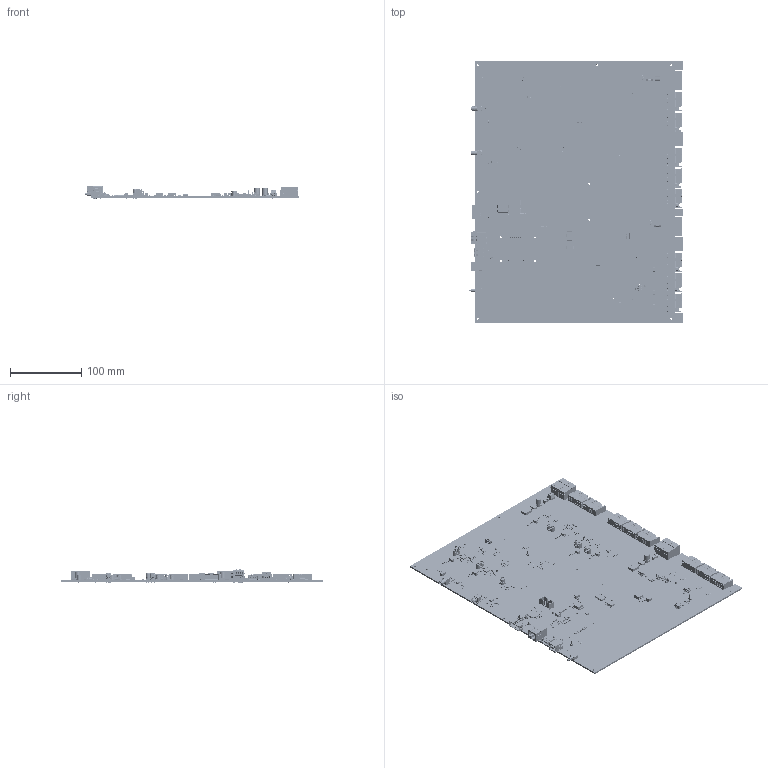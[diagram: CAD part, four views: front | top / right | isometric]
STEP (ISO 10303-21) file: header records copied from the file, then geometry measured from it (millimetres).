
FILE_DESCRIPTION(('STEP AP214'),'1');
FILE_NAME('APSCT.step','2022-02-25T17:09:49',(' '),(' '),'Spatial InterOp 3D','XD3DPlugin XRACreate',' ');
FILE_SCHEMA(('automotive_design'));
Length unit declared in the file: millimetre
Products named in the file (211): Submodel-M:\VIEWlogic\Projects\LOFAR_2\APSCT\Rev3\APSCT\PCB\Layout\3D\Input_S\GCM1555C1H101FA16D.xtd; GCM1555C1H101FA16D; Submodel-CAP0402_MRT_part_simplified_CAPC1005X55N_MRT; APSCT; Submodel-M:\VIEWlogic\Projects\LOFAR_2\APSCT\Rev3\APSCT\PCB\Layout\3D\Input_S\RES_CRCW_0402.xtd; RES_CRCW_0402; Submodel-RES0402_CRCW_VH_part_simplified_RESC1005X40N_VH; Submodel-M:\VIEWlogic\Projects\LOFAR_2\APSCT\Rev3\APSCT\PCB\Layout\3D\Input_S\L1608.xtd; L1608; Submodel-FB0603_WRT_part_simplified_INDC1608X100N_WRT; Submodel-M:\VIEWlogic\Projects\LOFAR_2\APSCT\Rev3\APSCT\PCB\Layout\3D\Input_S\RES_MC0063W0603110K_MTC.xtd; RES_MC0063W0603110K_MTC; Submodel-RES0603_MC_part_simplified_RESC1608X55N_MC; Submodel-M:\VIEWlogic\Projects\LOFAR_2\APSCT\Rev3\APSCT\PCB\Layout\3D\Input_S\BSS138Q-7-F.xtd; BSS138Q-7-F; Submodel-BSS138_part_simplified_SOT95P240X150-3N2_FC; Submodel-M:\VIEWlogic\Projects\LOFAR_2\APSCT\Rev3\APSCT\PCB\Layout\3D\Input_S\TSW-102-05-G-S.xtd; TSW-102-05-G-S; Submodel-JUMP2_part_simplified_JMP2; Submodel-M:\VIEWlogic\Projects\LOFAR_2\APSCT\Rev3\APSCT\PCB\Layout\3D\Input_S\RC0402N_YAG.xtd; RC0402N_YAG; Submodel-RES0402_PYG_part_simplified_RESC1005X37N_PYG; Submodel-M:\VIEWlogic\Projects\LOFAR_2\APSCT\Rev3\APSCT\PCB\Layout\3D\Input_S\CCH-J-02.xtd; CCH-J-02; Submodel-CCH_J_02_part_simplified_CCH_J_02; Submodel-M:\VIEWlogic\Projects\LOFAR_2\APSCT\Rev3\APSCT\PCB\Layout\3D\Input_S\VJ0805Y122KEXAC.xtd; VJ0805Y122KEXAC; Submodel-CAP0805_GRM21_MRT_part_simplified_CAPC2013X145N_MRT2; Submodel-M:\VIEWlogic\Projects\LOFAR_2\APSCT\Rev3\APSCT\PCB\Layout\3D\Input_S\PAT0402E1001BST1.xtd; PAT0402E1001BST1; Submodel-CG0402MLU_part_simplified_RESC1005X40N_BRN_SIEDS; Submodel-M:\VIEWlogic\Projects\LOFAR_2\APSCT\Rev3\APSCT\PCB\Layout\3D\Input_S\QFN16_3X3.xtd; QFN16_3X3; Submodel-NB4L52_part_simplified_QFN50P300X300X100-17N2_ONS; Submodel-M:\VIEWlogic\Projects\LOFAR_2\APSCT\Rev3\APSCT\PCB\Layout\3D\Input_S\xd_capcm_30.xtd; xd_capcm_30; Submodel-CAPPE_AVX_part_simplified_CAPMP7344X430NB_AVX; Submodel-M:\VIEWlogic\Projects\LOFAR_2\APSCT\Rev3\APSCT\PCB\Layout\3D\Input_S\AST01139.xtd; AST01139; Submodel-LED0603_PSN_part_simplified_LEDC1608X90N_PSN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
Assembly tree (1025 placements, depth 4):
  APSCT
    Submodel-CAP0402_MRT_part_simplified_CAPC1005X55N_MRT  x307
      Submodel-M:\VIEWlogic\Projects\LOFAR_2\APSCT\Rev3\APSCT\PCB\Layout\3D\Input_S\GCM1555C1H101FA16D.xtd
        GCM1555C1H101FA16D
    Submodel-RES0402_CRCW_VH_part_simplified_RESC1005X40N_VH  x255
      Submodel-M:\VIEWlogic\Projects\LOFAR_2\APSCT\Rev3\APSCT\PCB\Layout\3D\Input_S\RES_CRCW_0402.xtd
        RES_CRCW_0402
    Submodel-FB0603_WRT_part_simplified_INDC1608X100N_WRT  x19
      Submodel-M:\VIEWlogic\Projects\LOFAR_2\APSCT\Rev3\APSCT\PCB\Layout\3D\Input_S\L1608.xtd
        L1608
    Submodel-RES0603_MC_part_simplified_RESC1608X55N_MC  x5
      Submodel-M:\VIEWlogic\Projects\LOFAR_2\APSCT\Rev3\APSCT\PCB\Layout\3D\Input_S\RES_MC0063W0603110K_MTC.xtd
        RES_MC0063W0603110K_MTC
    Submodel-BSS138_part_simplified_SOT95P240X150-3N2_FC  x6
      Submodel-M:\VIEWlogic\Projects\LOFAR_2\APSCT\Rev3\APSCT\PCB\Layout\3D\Input_S\BSS138Q-7-F.xtd
        BSS138Q-7-F
    Submodel-JUMP2_part_simplified_JMP2  x6
      Submodel-M:\VIEWlogic\Projects\LOFAR_2\APSCT\Rev3\APSCT\PCB\Layout\3D\Input_S\TSW-102-05-G-S.xtd
        TSW-102-05-G-S
    Submodel-RES0402_PYG_part_simplified_RESC1005X37N_PYG  x26
      Submodel-M:\VIEWlogic\Projects\LOFAR_2\APSCT\Rev3\APSCT\PCB\Layout\3D\Input_S\RC0402N_YAG.xtd
        RC0402N_YAG
    Submodel-CCH_J_02_part_simplified_CCH_J_02  x5
      Submodel-M:\VIEWlogic\Projects\LOFAR_2\APSCT\Rev3\APSCT\PCB\Layout\3D\Input_S\CCH-J-02.xtd
        CCH-J-02
    Submodel-CAP0805_GRM21_MRT_part_simplified_CAPC2013X145N_MRT2  x48
      Submodel-M:\VIEWlogic\Projects\LOFAR_2\APSCT\Rev3\APSCT\PCB\Layout\3D\Input_S\VJ0805Y122KEXAC.xtd
        VJ0805Y122KEXAC
    Submodel-CG0402MLU_part_simplified_RESC1005X40N_BRN_SIEDS  x12
      Submodel-M:\VIEWlogic\Projects\LOFAR_2\APSCT\Rev3\APSCT\PCB\Layout\3D\Input_S\PAT0402E1001BST1.xtd
        PAT0402E1001BST1
    Submodel-NB4L52_part_simplified_QFN50P300X300X100-17N2_ONS  x2
      Submodel-M:\VIEWlogic\Projects\LOFAR_2\APSCT\Rev3\APSCT\PCB\Layout\3D\Input_S\QFN16_3X3.xtd
        QFN16_3X3
    Submodel-CAPPE_AVX_part_simplified_CAPMP7344X430NB_AVX  x11
      Submodel-M:\VIEWlogic\Projects\LOFAR_2\APSCT\Rev3\APSCT\PCB\Layout\3D\Input_S\xd_capcm_30.xtd
        xd_capcm_30
    Submodel-LED0603_PSN_part_simplified_LEDC1608X90N_PSN  x9
      Submodel-M:\VIEWlogic\Projects\LOFAR_2\APSCT\Rev3\APSCT\PCB\Layout\3D\Input_S\AST01139.xtd
        AST01139
    Submodel-HDR1PM_ST_part_simplified_HDRV1W70P254_1X1_250X250X1346P_ST  x8
      Submodel-M:\VIEWlogic\Projects\LOFAR_2\APSCT\Rev3\APSCT\PCB\Layout\3D\Input_S\TSW-101-07-T-S.xtd
        TSW-101-07-T-S
    Submodel-221789-3_part_simplified_TYCO_221789-3
      Submodel-M:\VIEWlogic\Projects\LOFAR_2\APSCT\Rev3\APSCT\PCB\Layout\3D\Input_S\SMA-J-P-H-ST-TH1.xtd
        SMA-J-P-H-ST-TH1
    Submodel-WE_CBF_0603_part_simplified_INDC1608X100N_WRT  x3
      Submodel-M:\VIEWlogic\Projects\LOFAR_2\APSCT\Rev3\APSCT\PCB\Layout\3D\Input_S\User Library-FB_1608 0603.xtd
        User Library-FB_1608 0603
    Submodel-chip_fuse_part_simplified_FUSM9750X401N2_LF  x2
      Submodel-M:\VIEWlogic\Projects\LOFAR_2\APSCT\Rev3\APSCT\PCB\Layout\3D\Input_S\0154005.DRT.xtd
        0154005.DRT
    Submodel-LM4040-N_part_simplified_SOT23-3P95_237X112L40X40N_TI
      Submodel-M:\VIEWlogic\Projects\LOFAR_2\APSCT\Rev3\APSCT\PCB\Layout\3D\Input_S\NOPB.xtd
        NOPB
    Submodel-TCA6416APWR_part_simplified_SOP65P640X120-24N2_TI  x2
      Submodel-M:\VIEWlogic\Projects\LOFAR_2\APSCT\Rev3\APSCT\PCB\Layout\3D\Input_S\TCA6416APWR.xtd
        TCA6416APWR
    Submodel-ADM7172_part_simplified_SON9P50_300X300X80L40X25T244X160N_AD  x5
      Submodel-M:\VIEWlogic\Projects\LOFAR_2\APSCT\Rev3\APSCT\PCB\Layout\3D\Input_S\ADM7172ACPZ-3.3-R7.xtd
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Bounding box: 301.07 x 366.66 x 19.88 mm (x, y, z)
Volume: 317931.5 mm3; surface area: 281798.5 mm2
Topology: 3354 solids, 3521 shells, 54086 faces, 129489 edges, 81065 vertices
Faces by surface type: plane 38858, cylinder 11948, sphere 2756, bspline 226, cone 119, extrusion 115, torus 64
Full cylindrical faces by diameter (mm): 0.09 x1, 0.121 x2, 0.15 x3, 0.16 x2, 0.2 x2, 0.253 x2, 0.255 x1, 0.297 x9, 0.3 x4, 0.375 x7, 0.47 x2, 0.5 x2, 0.564 x1, 1 x14, 1.1 x2, 1.16 x2, 1.2 x4, 1.27 x6, 1.372 x20, 1.5 x4, 1.7 x10, 1.93 x18, 1.96 x2, 2.12 x2, 2.24 x2, 2.45 x2, 2.7 x12, 2.756 x10, 2.794 x10, 2.92 x2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
Entity records: 545471 total; most frequent: CARTESIAN_POINT 78111, DIRECTION 67931, ORIENTED_EDGE 66952, EDGE_CURVE 33874, VECTOR 27545, LINE 27474, VERTEX_POINT 22597, AXIS2_PLACEMENT_3D 20193
